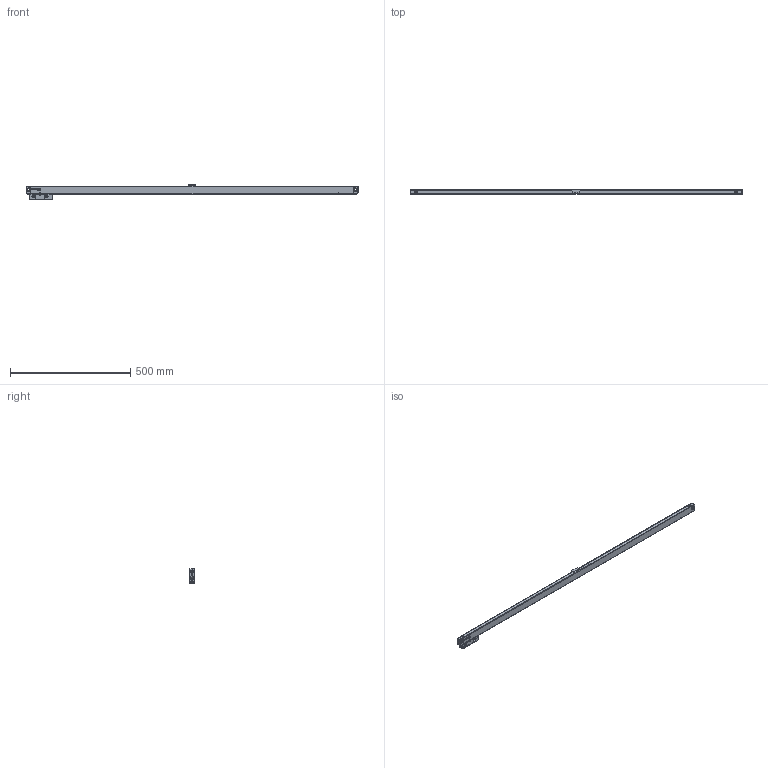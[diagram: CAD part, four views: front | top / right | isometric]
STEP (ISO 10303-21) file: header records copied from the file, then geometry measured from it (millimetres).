
FILE_DESCRIPTION(('Creo Elements/Direct Modeling STEP Export'),'2;1');
FILE_NAME('Regla_S2-1240-T.stp','2018-11-06T11:52:13',(''),(''),'Creo Elements/Direct Modeling STEP processor for AP214 (Solid Model)','Creo Elements/Direct Modeling 19.0G 27-Nov-2017 (C) Parametric Technology GmbH','');
FILE_SCHEMA(('AUTOMOTIVE_DESIGN { 1 0 10303 214 1 1 1 1 }'));
Length unit declared in the file: millimetre
Products named in the file (4): REGLA_S-1240-T; CABEZA_ROSCADA_REGLA_S; SOPORTE_INTERMEDIO_S; REGLA_S2-1240-T
Assembly tree (3 placements, depth 2):
  REGLA_S2-1240-T
    SOPORTE_INTERMEDIO_S
    CABEZA_ROSCADA_REGLA_S
    REGLA_S-1240-T
Bounding box: 1378 x 18.3 x 61.8 mm (x, y, z)
Volume: 750438.8 mm3; surface area: 199201.8 mm2
Topology: 3 solids, 23 shells, 914 faces, 2346 edges, 1512 vertices
Faces by surface type: plane 382, cylinder 307, cone 174, bspline 38, torus 6, sphere 4, extrusion 3
Entity records: 31955 total; most frequent: CARTESIAN_POINT 7533, ORIENTED_EDGE 4664, DIRECTION 3943, EDGE_CURVE 2332, VERTEX_POINT 1512, AXIS2_PLACEMENT_3D 1334, VECTOR 1275, LINE 1272
